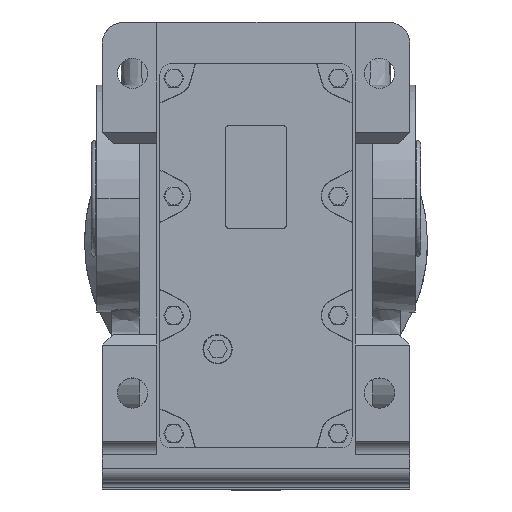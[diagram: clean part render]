
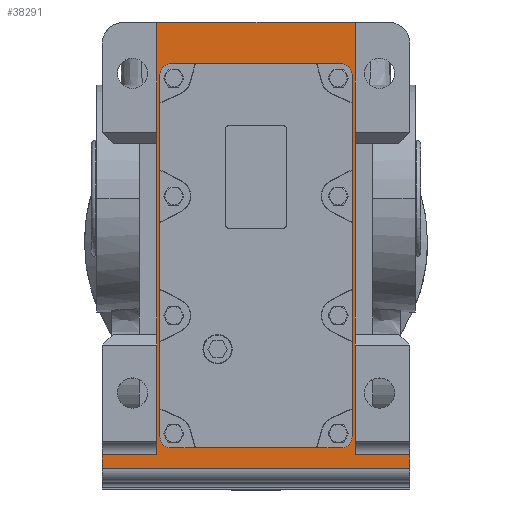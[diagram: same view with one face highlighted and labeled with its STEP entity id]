
A CAD part, top view. The second image highlights one B-rep face of the part: STEP entity #38291.
In plain terms, the highlighted planar face has unit normal (0, 0, 1).
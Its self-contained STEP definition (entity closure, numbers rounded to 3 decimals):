
#753 = AXIS2_PLACEMENT_3D ( 'NONE', #47381, #47389, #47390 ) ;
#15105 = CARTESIAN_POINT ( 'NONE',  ( 70., 90., 111. ) ) ;
#15108 = CARTESIAN_POINT ( 'NONE',  ( 62., -182., 111. ) ) ;
#15110 = CARTESIAN_POINT ( 'NONE',  ( 70., -174., 111. ) ) ;
#15116 = CARTESIAN_POINT ( 'NONE',  ( 62., 98., 111. ) ) ;
#15118 = CARTESIAN_POINT ( 'NONE',  ( -62., 98., 111. ) ) ;
#15121 = CARTESIAN_POINT ( 'NONE',  ( -70., 90., 111. ) ) ;
#18871 = FACE_BOUND ( 'NONE', #37336, .T. ) ;
#18877 = FACE_OUTER_BOUND ( 'NONE', #37331, .T. ) ;
#23637 = VERTEX_POINT ( 'NONE', #15121 ) ;
#23643 = VERTEX_POINT ( 'NONE', #15118 ) ;
#23646 = VERTEX_POINT ( 'NONE', #15116 ) ;
#23654 = VERTEX_POINT ( 'NONE', #15110 ) ;
#23659 = VERTEX_POINT ( 'NONE', #15108 ) ;
#23665 = VERTEX_POINT ( 'NONE', #15105 ) ;
#26633 = AXIS2_PLACEMENT_3D ( 'NONE', #27159, #27156, #27153 ) ;
#26635 = AXIS2_PLACEMENT_3D ( 'NONE', #27178, #27172, #27170 ) ;
#26642 = AXIS2_PLACEMENT_3D ( 'NONE', #27300, #27298, #27295 ) ;
#26659 = AXIS2_PLACEMENT_3D ( 'NONE', #27501, #27498, #27496 ) ;
#27122 = DIRECTION ( 'NONE',  ( 0., 1., 0. ) ) ;
#27127 = CARTESIAN_POINT ( 'NONE',  ( 70., 90., 111. ) ) ;
#27129 = DIRECTION ( 'NONE',  ( -1., 0., 0. ) ) ;
#27136 = CARTESIAN_POINT ( 'NONE',  ( 62., 98., 111. ) ) ;
#27141 = DIRECTION ( 'NONE',  ( 0., -1., 0. ) ) ;
#27146 = CARTESIAN_POINT ( 'NONE',  ( -70., 90., 111. ) ) ;
#27153 = DIRECTION ( 'NONE',  ( 1., 0., 0. ) ) ;
#27156 = DIRECTION ( 'NONE',  ( 0., 0., 1. ) ) ;
#27159 = CARTESIAN_POINT ( 'NONE',  ( 62., -174., 111. ) ) ;
#27161 = CARTESIAN_POINT ( 'NONE',  ( 62., -182., 111. ) ) ;
#27170 = DIRECTION ( 'NONE',  ( 1., 0., 0. ) ) ;
#27172 = DIRECTION ( 'NONE',  ( 0., 0., 1. ) ) ;
#27178 = CARTESIAN_POINT ( 'NONE',  ( 62., 90., 111. ) ) ;
#27188 = DIRECTION ( 'NONE',  ( 1., 0., 0. ) ) ;
#27295 = DIRECTION ( 'NONE',  ( -1., 0., 0. ) ) ;
#27298 = DIRECTION ( 'NONE',  ( 0., 0., 1. ) ) ;
#27300 = CARTESIAN_POINT ( 'NONE',  ( -62., 90., 111. ) ) ;
#27496 = DIRECTION ( 'NONE',  ( 1., 0., 0. ) ) ;
#27498 = DIRECTION ( 'NONE',  ( 0., 0., 1. ) ) ;
#27501 = CARTESIAN_POINT ( 'NONE',  ( -62., -174., 111. ) ) ;
#27891 = DIRECTION ( 'NONE',  ( 1., 0., 0. ) ) ;
#27895 = CARTESIAN_POINT ( 'NONE',  ( -72.5, -187., 111. ) ) ;
#27908 = CARTESIAN_POINT ( 'NONE',  ( 72.5, -212., 111. ) ) ;
#27926 = DIRECTION ( 'NONE',  ( 1., 0., 0. ) ) ;
#27932 = CARTESIAN_POINT ( 'NONE',  ( -72.5, 128., 111. ) ) ;
#27944 = DIRECTION ( 'NONE',  ( 0., -1., 0. ) ) ;
#27961 = CARTESIAN_POINT ( 'NONE',  ( -72.5, -212., 111. ) ) ;
#27977 = DIRECTION ( 'NONE',  ( 0., 1., 0. ) ) ;
#27989 = CARTESIAN_POINT ( 'NONE',  ( -72.5, -187., 111. ) ) ;
#28001 = DIRECTION ( 'NONE',  ( 1., 0., 0. ) ) ;
#28017 = DIRECTION ( 'NONE',  ( 0., 1., 0. ) ) ;
#28024 = CARTESIAN_POINT ( 'NONE',  ( -112., -212., 111. ) ) ;
#28035 = DIRECTION ( 'NONE',  ( -1., 0., 0. ) ) ;
#28040 = CARTESIAN_POINT ( 'NONE',  ( -72.5, -197., 111. ) ) ;
#28058 = CARTESIAN_POINT ( 'NONE',  ( 112., -212., 111. ) ) ;
#28071 = DIRECTION ( 'NONE',  ( 0., -1., 0. ) ) ;
#30344 = EDGE_CURVE ( 'NONE', #42270, #42605, #43806, .T. ) ;
#30346 = EDGE_CURVE ( 'NONE', #42605, #42574, #43809, .T. ) ;
#30348 = EDGE_CURVE ( 'NONE', #42574, #42609, #43812, .T. ) ;
#30350 = EDGE_CURVE ( 'NONE', #42609, #42643, #43815, .T. ) ;
#30352 = EDGE_CURVE ( 'NONE', #42643, #42679, #43818, .T. ) ;
#30354 = EDGE_CURVE ( 'NONE', #42679, #42225, #43821, .T. ) ;
#30357 = EDGE_CURVE ( 'NONE', #42225, #42579, #43819, .T. ) ;
#30358 = EDGE_CURVE ( 'NONE', #42579, #42270, #43828, .T. ) ;
#30414 = EDGE_CURVE ( 'NONE', #42396, #42340, #43934, .T. ) ;
#30434 = EDGE_CURVE ( 'NONE', #23643, #23637, #43969, .T. ) ;
#30446 = EDGE_CURVE ( 'NONE', #23665, #23646, #43990, .T. ) ;
#30447 = EDGE_CURVE ( 'NONE', #23659, #23654, #43992, .T. ) ;
#30448 = EDGE_CURVE ( 'NONE', #42340, #23659, #43985, .T. ) ;
#30449 = EDGE_CURVE ( 'NONE', #23637, #42396, #43994, .T. ) ;
#30450 = EDGE_CURVE ( 'NONE', #23646, #23643, #43996, .T. ) ;
#30451 = EDGE_CURVE ( 'NONE', #23654, #23665, #43998, .T. ) ;
#32259 = ORIENTED_EDGE ( 'NONE', *, *, #30447, .F. ) ;
#32263 = ORIENTED_EDGE ( 'NONE', *, *, #30448, .F. ) ;
#32270 = ORIENTED_EDGE ( 'NONE', *, *, #30414, .F. ) ;
#32274 = ORIENTED_EDGE ( 'NONE', *, *, #30449, .F. ) ;
#32281 = ORIENTED_EDGE ( 'NONE', *, *, #30434, .F. ) ;
#32284 = ORIENTED_EDGE ( 'NONE', *, *, #30450, .F. ) ;
#32291 = ORIENTED_EDGE ( 'NONE', *, *, #30446, .F. ) ;
#32295 = ORIENTED_EDGE ( 'NONE', *, *, #30451, .F. ) ;
#32301 = ORIENTED_EDGE ( 'NONE', *, *, #30358, .F. ) ;
#32306 = ORIENTED_EDGE ( 'NONE', *, *, #30357, .F. ) ;
#32311 = ORIENTED_EDGE ( 'NONE', *, *, #30354, .F. ) ;
#32314 = ORIENTED_EDGE ( 'NONE', *, *, #30352, .F. ) ;
#32320 = ORIENTED_EDGE ( 'NONE', *, *, #30350, .F. ) ;
#32324 = ORIENTED_EDGE ( 'NONE', *, *, #30348, .F. ) ;
#32331 = ORIENTED_EDGE ( 'NONE', *, *, #30346, .F. ) ;
#32332 = ORIENTED_EDGE ( 'NONE', *, *, #30344, .F. ) ;
#35783 = CARTESIAN_POINT ( 'NONE',  ( 72.5, 128., 111. ) ) ;
#35801 = CARTESIAN_POINT ( 'NONE',  ( 112., -187., 111. ) ) ;
#35834 = CARTESIAN_POINT ( 'NONE',  ( -62., -182., 111. ) ) ;
#35861 = CARTESIAN_POINT ( 'NONE',  ( -70., -174., 111. ) ) ;
#35930 = CARTESIAN_POINT ( 'NONE',  ( -112., -197., 111. ) ) ;
#35932 = CARTESIAN_POINT ( 'NONE',  ( 72.5, -187., 111. ) ) ;
#35942 = CARTESIAN_POINT ( 'NONE',  ( 112., -197., 111. ) ) ;
#35944 = CARTESIAN_POINT ( 'NONE',  ( -112., -187., 111. ) ) ;
#35956 = CARTESIAN_POINT ( 'NONE',  ( -72.5, -187., 111. ) ) ;
#35971 = CARTESIAN_POINT ( 'NONE',  ( -72.5, 128., 111. ) ) ;
#37331 = EDGE_LOOP ( 'NONE', ( #32301, #32306, #32311, #32314, #32320, #32324, #32331, #32332 ) ) ;
#37336 = EDGE_LOOP ( 'NONE', ( #32259, #32263, #32270, #32274, #32281, #32284, #32291, #32295 ) ) ;
#38291 = ADVANCED_FACE ( 'NONE', ( #18871, #18877 ), #47387, .F. ) ;
#42225 = VERTEX_POINT ( 'NONE', #35783 ) ;
#42270 = VERTEX_POINT ( 'NONE', #35801 ) ;
#42340 = VERTEX_POINT ( 'NONE', #35834 ) ;
#42396 = VERTEX_POINT ( 'NONE', #35861 ) ;
#42574 = VERTEX_POINT ( 'NONE', #35930 ) ;
#42579 = VERTEX_POINT ( 'NONE', #35932 ) ;
#42605 = VERTEX_POINT ( 'NONE', #35942 ) ;
#42609 = VERTEX_POINT ( 'NONE', #35944 ) ;
#42643 = VERTEX_POINT ( 'NONE', #35956 ) ;
#42679 = VERTEX_POINT ( 'NONE', #35971 ) ;
#43806 = LINE ( 'NONE', #28058, #43808 ) ;
#43808 = VECTOR ( 'NONE', #28071, 1000. ) ;
#43809 = LINE ( 'NONE', #28040, #43811 ) ;
#43811 = VECTOR ( 'NONE', #28035, 1000. ) ;
#43812 = LINE ( 'NONE', #28024, #43814 ) ;
#43814 = VECTOR ( 'NONE', #28017, 1000. ) ;
#43815 = LINE ( 'NONE', #27989, #43817 ) ;
#43817 = VECTOR ( 'NONE', #28001, 1000. ) ;
#43818 = LINE ( 'NONE', #27961, #43820 ) ;
#43819 = LINE ( 'NONE', #27908, #43829 ) ;
#43820 = VECTOR ( 'NONE', #27977, 1000. ) ;
#43821 = LINE ( 'NONE', #27932, #43824 ) ;
#43824 = VECTOR ( 'NONE', #27926, 1000. ) ;
#43828 = LINE ( 'NONE', #27895, #43831 ) ;
#43829 = VECTOR ( 'NONE', #27944, 1000. ) ;
#43831 = VECTOR ( 'NONE', #27891, 1000. ) ;
#43934 = CIRCLE ( 'NONE', #26659, 8. ) ;
#43969 = CIRCLE ( 'NONE', #26642, 8. ) ;
#43985 = LINE ( 'NONE', #27161, #43995 ) ;
#43990 = CIRCLE ( 'NONE', #26635, 8. ) ;
#43992 = CIRCLE ( 'NONE', #26633, 8. ) ;
#43994 = LINE ( 'NONE', #27146, #43997 ) ;
#43995 = VECTOR ( 'NONE', #27188, 1000. ) ;
#43996 = LINE ( 'NONE', #27136, #43999 ) ;
#43997 = VECTOR ( 'NONE', #27141, 1000. ) ;
#43998 = LINE ( 'NONE', #27127, #44001 ) ;
#43999 = VECTOR ( 'NONE', #27129, 1000. ) ;
#44001 = VECTOR ( 'NONE', #27122, 1000. ) ;
#47381 = CARTESIAN_POINT ( 'NONE',  ( -72.5, -212., 111. ) ) ;
#47387 = PLANE ( 'NONE',  #753 ) ;
#47389 = DIRECTION ( 'NONE',  ( 0., 0., -1. ) ) ;
#47390 = DIRECTION ( 'NONE',  ( 0., 1., 0. ) ) ;
